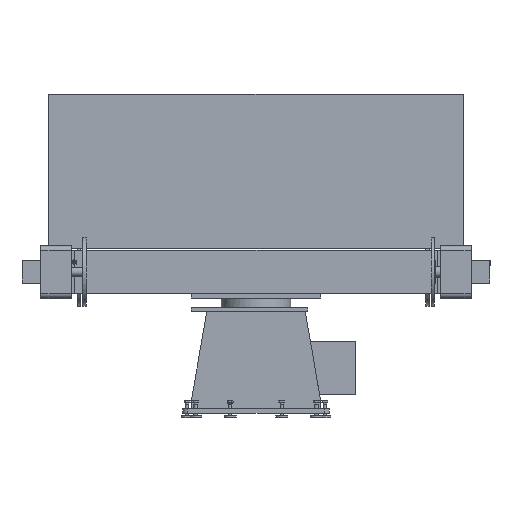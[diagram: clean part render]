
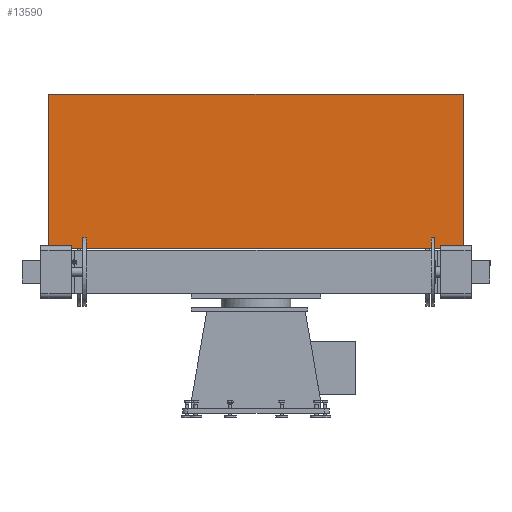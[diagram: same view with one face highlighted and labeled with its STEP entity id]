
A CAD part, front view. The second image highlights one B-rep face of the part: STEP entity #13590.
In plain terms, the highlighted planar face has unit normal (0, -1, 0) as drawn and (-1, 0, 0) by its records, which use the part's own axes.
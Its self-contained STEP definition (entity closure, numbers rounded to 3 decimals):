
#13097=CARTESIAN_POINT('',(-41.,-1157.5,5.));
#13098=VERTEX_POINT('',#13097);
#13107=CARTESIAN_POINT('',(-41.,1157.5,5.));
#13108=VERTEX_POINT('',#13107);
#13109=CARTESIAN_POINT('',(-41.,1157.5,5.));
#13110=DIRECTION('',(0.0,-1.0,0.0));
#13111=VECTOR('',#13110,2315.);
#13112=LINE('',#13109,#13111);
#13113=EDGE_CURVE('',#13108,#13098,#13112,.T.);
#13137=CARTESIAN_POINT('',(-41.,1202.5,5.));
#13138=VERTEX_POINT('',#13137);
#13139=CARTESIAN_POINT('',(-41.,1157.5,5.));
#13140=DIRECTION('',(0.0,1.0,0.0));
#13141=VECTOR('',#13140,45.0);
#13142=LINE('',#13139,#13141);
#13143=EDGE_CURVE('',#13108,#13138,#13142,.T.);
#13227=CARTESIAN_POINT('',(-41.,1202.5,899.));
#13228=VERTEX_POINT('',#13227);
#13244=CARTESIAN_POINT('',(-41.,1202.5,5.));
#13245=DIRECTION('',(0.0,0.0,1.0));
#13246=VECTOR('',#13245,894.);
#13247=LINE('',#13244,#13246);
#13248=EDGE_CURVE('',#13138,#13228,#13247,.T.);
#13464=CARTESIAN_POINT('',(-41.,-1202.5,5.));
#13465=VERTEX_POINT('',#13464);
#13472=CARTESIAN_POINT('',(-41.,-1202.5,5.));
#13473=DIRECTION('',(0.0,1.0,0.0));
#13474=VECTOR('',#13473,45.);
#13475=LINE('',#13472,#13474);
#13476=EDGE_CURVE('',#13465,#13098,#13475,.T.);
#13546=CARTESIAN_POINT('',(-41.,-1202.5,899.));
#13547=VERTEX_POINT('',#13546);
#13556=CARTESIAN_POINT('',(-41.,-1202.5,5.));
#13557=DIRECTION('',(0.0,0.0,1.0));
#13558=VECTOR('',#13557,894.0);
#13559=LINE('',#13556,#13558);
#13560=EDGE_CURVE('',#13465,#13547,#13559,.T.);
#13572=CARTESIAN_POINT('',(-41.,-1196.5,5.));
#13573=DIRECTION('',(-1.0,0.0,0.0));
#13574=DIRECTION('',(0.0,0.0,1.0));
#13575=AXIS2_PLACEMENT_3D('',#13572,#13573,#13574);
#13576=PLANE('',#13575);
#13577=CARTESIAN_POINT('',(-41.,1202.5,899.));
#13578=DIRECTION('',(0.0,-1.0,0.0));
#13579=VECTOR('',#13578,2405.);
#13580=LINE('',#13577,#13579);
#13581=EDGE_CURVE('',#13228,#13547,#13580,.T.);
#13582=ORIENTED_EDGE('',*,*,#13581,.F.);
#13583=ORIENTED_EDGE('',*,*,#13248,.F.);
#13584=ORIENTED_EDGE('',*,*,#13143,.F.);
#13585=ORIENTED_EDGE('',*,*,#13113,.T.);
#13586=ORIENTED_EDGE('',*,*,#13476,.F.);
#13587=ORIENTED_EDGE('',*,*,#13560,.T.);
#13588=EDGE_LOOP('',(#13582,#13583,#13584,#13585,#13586,#13587));
#13589=FACE_OUTER_BOUND('',#13588,.T.);
#13590=ADVANCED_FACE('',(#13589),#13576,.T.);
